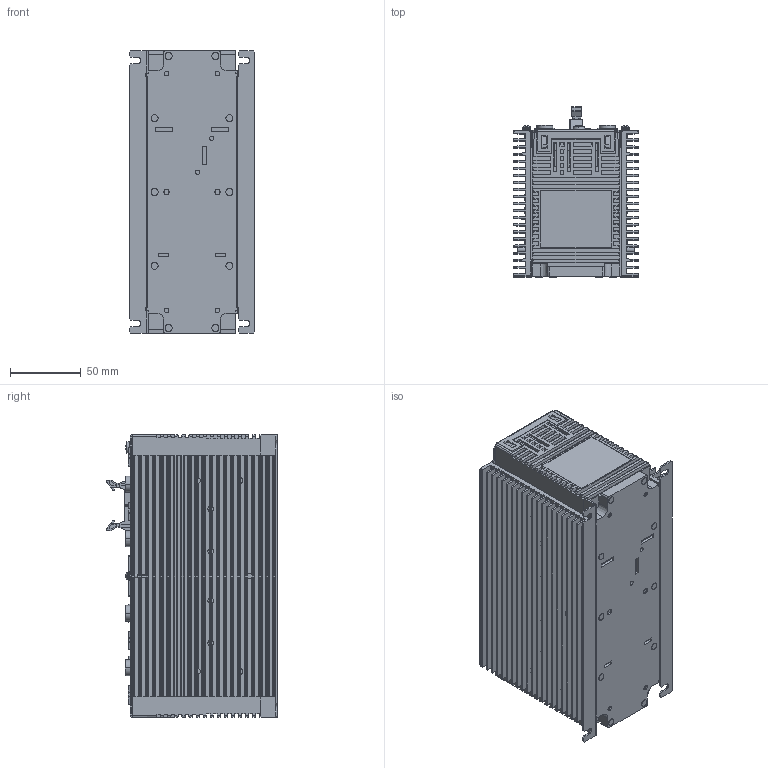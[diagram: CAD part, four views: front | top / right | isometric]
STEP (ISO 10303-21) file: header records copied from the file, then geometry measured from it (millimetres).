
FILE_DESCRIPTION (( 'STEP AP203' ), '1' );
FILE_NAME ('J-CVM-5_WEB.STEP', '2017-04-05T01:42:37', ( '' ), ( '' ), 'SwSTEP 2.0', 'SolidWorks 2016', '' );
FILE_SCHEMA (( 'CONFIG_CONTROL_DESIGN' ));
Products named in the file (2): JCVM(基本設計5A)_WEB; J-CVM-5_WEB
Assembly tree (1 placements, depth 2):
  J-CVM-5_WEB
    JCVM(基本設計5A)_WEB
Bounding box: 88.9 x 120.48 x 200 mm (x, y, z)
Volume: 1471623.7 mm3; surface area: 328945.7 mm2
Topology: 1 solids, 31 shells, 6805 faces, 18605 edges, 12259 vertices
Faces by surface type: plane 4782, bspline 1176, cylinder 801, cone 28, sphere 10, torus 8
Entity records: 252758 total; most frequent: CARTESIAN_POINT 88700, ORIENTED_EDGE 37206, DIRECTION 28045, EDGE_CURVE 18603, VECTOR 14229, LINE 14229, VERTEX_POINT 12259, EDGE_LOOP 7428
